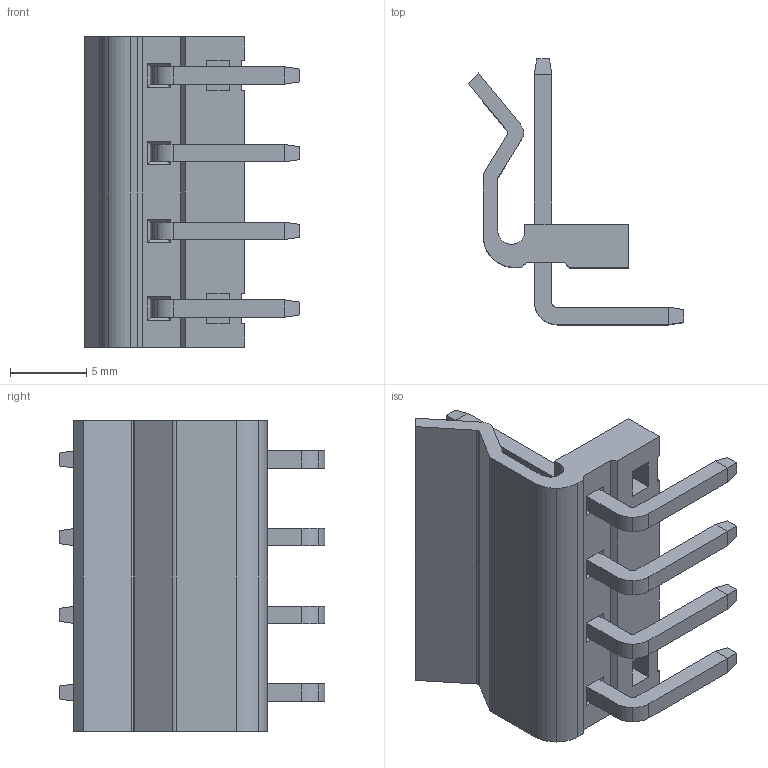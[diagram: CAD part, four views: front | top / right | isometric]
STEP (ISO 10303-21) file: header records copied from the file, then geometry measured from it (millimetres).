
FILE_DESCRIPTION (( 'STEP AP203' ), '1' );
FILE_NAME ('HC-5.08-4AW-02(詢俔-HCTL).STEP', '2024-08-08T01:35:31', ( '' ), ( '' ), 'SwSTEP 2.0', 'SolidWorks 2022', '' );
FILE_SCHEMA (( 'CONFIG_CONTROL_DESIGN' ));
Length unit declared in the file: millimetre
Products named in the file (1): HC-5.08-4AW-02(詢俔-HCTL)
Bounding box: 14.1 x 17.37 x 20.32 mm (x, y, z)
Volume: 786.4 mm3; surface area: 1488 mm2
Topology: 1 solids, 1 shells, 156 faces, 384 edges, 240 vertices
Faces by surface type: plane 131, cylinder 25
Entity records: 4571 total; most frequent: CARTESIAN_POINT 781, ORIENTED_EDGE 768, DIRECTION 748, EDGE_CURVE 384, VECTOR 334, LINE 334, VERTEX_POINT 240, AXIS2_PLACEMENT_3D 207
